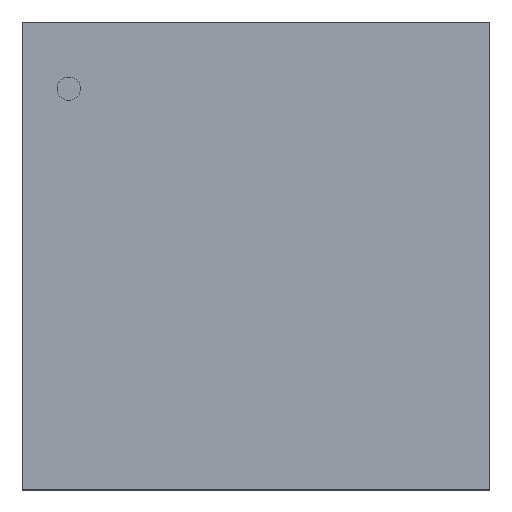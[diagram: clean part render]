
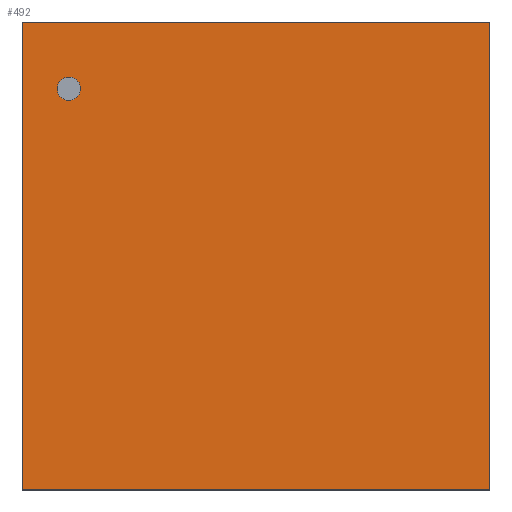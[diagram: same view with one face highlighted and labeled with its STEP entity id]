
A CAD part, top view. The second image highlights one B-rep face of the part: STEP entity #492.
In plain terms, the highlighted planar face has unit normal (0, 0, 1).
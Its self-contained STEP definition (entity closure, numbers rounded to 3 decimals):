
#268=CARTESIAN_POINT('',(1.575,-1.575,0.813));
#267=VERTEX_POINT('',#268);
#278=CARTESIAN_POINT('',(-1.575,-1.575,0.813));
#277=VERTEX_POINT('',#278);
#276=EDGE_CURVE('',#277,#267,#281,.T.);
#281=LINE('',#278,#283);
#283=VECTOR('',#284,3.15);
#284=DIRECTION('',(1.0,0.0,0.0));
#317=CARTESIAN_POINT('',(1.575,1.575,0.813));
#316=VERTEX_POINT('',#317);
#325=EDGE_CURVE('',#267,#316,#330,.T.);
#330=LINE('',#268,#332);
#332=VECTOR('',#333,3.15);
#333=DIRECTION('',(0.0,1.0,0.0));
#366=CARTESIAN_POINT('',(-1.575,1.575,0.813));
#365=VERTEX_POINT('',#366);
#374=EDGE_CURVE('',#316,#365,#379,.T.);
#379=LINE('',#317,#381);
#381=VECTOR('',#382,3.15);
#382=DIRECTION('',(-1.0,0.0,0.0));
#423=EDGE_CURVE('',#365,#277,#428,.T.);
#428=LINE('',#366,#430);
#430=VECTOR('',#431,3.15);
#431=DIRECTION('',(0.0,-1.0,0.0));
#492=ADVANCED_FACE('',(#498),#493,.T.);
#493=PLANE('',#494);
#494=AXIS2_PLACEMENT_3D('',#495,#496,#497);
#495=CARTESIAN_POINT('',(-1.575,-1.575,0.813));
#496=DIRECTION('',(0.0,0.0,1.0));
#497=DIRECTION('',(0.,1.,0.));
#498=FACE_OUTER_BOUND('',#499,.T.);
#499=EDGE_LOOP('',(#500,#510,#520,#530));
#500=ORIENTED_EDGE('',*,*,#276,.T.);
#510=ORIENTED_EDGE('',*,*,#325,.T.);
#520=ORIENTED_EDGE('',*,*,#374,.T.);
#530=ORIENTED_EDGE('',*,*,#423,.T.);
